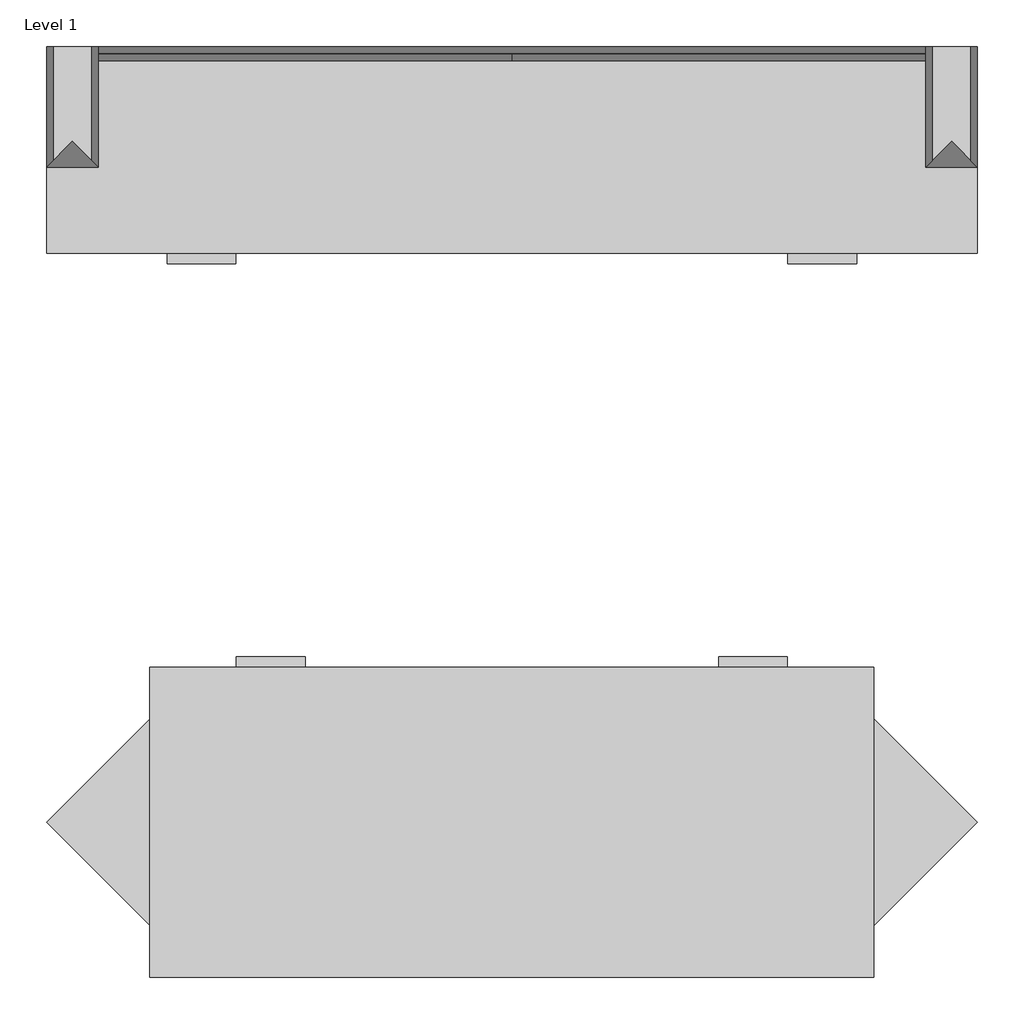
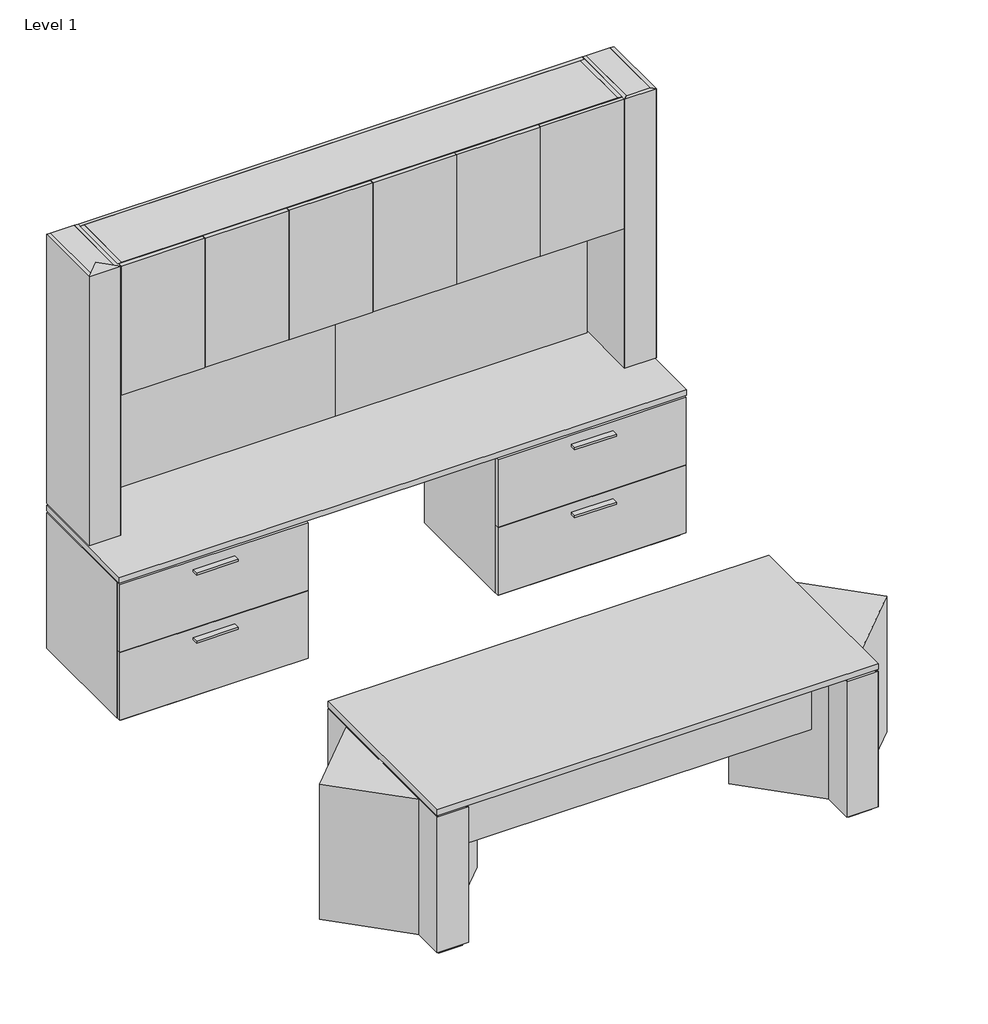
# One storey: 3 proxies.
"""IFC4 building model written with IfcOpenShell, lengths in millimetres."""

from ifc_helpers import new_model, si_unit, origin, place, context, project, spatial, transform, mapped, element, save
from components import generic_models_2694a0a2, generic_models_349c50b2, generic_models_c0b92d67

model = new_model("IFC4")

# Units and contexts
model_context = context("Model", 3, world=origin())
ifc_project = project(units=[si_unit("LENGTHUNIT", "METRE", prefix="MILLI")], contexts=[model_context])

# Site, building, storey
site = spatial("IfcSite", under=ifc_project)
building = spatial("IfcBuilding", under=site)
storey = spatial("IfcBuildingStorey", under=building, Name="Level 1", Elevation=0.0)

# Proxies
placement = place(None, origin())
generic_models_shape = generic_models_2694a0a2(model_context)
element("IfcBuildingElementProxy", 1, Name="BASYS^OFFICE 4_DESK-HALF LTR STORAGE", ObjectType="BASYS^OFFICE 4_DESK-HALF LTR STORAGE", at=placement, inside=storey, context=model_context, shape_type="MappedRepresentation", body=[
    mapped(generic_models_shape, transform((304.8, -1828.8, 0.0), x_axis=(1.0, 0.0, 0.0), y_axis=(0.0, 0.0, 1.0), z_axis=(0.0, -1.0, 0.0))),
])
generic_models_2_shape = generic_models_349c50b2(model_context)
element("IfcBuildingElementProxy", 2, Name="BASYS^OFFICE 4_HIGH RISE-12x55x108-6 DOORS", ObjectType="BASYS^OFFICE 4_HIGH RISE-12x55x108-6 DOORS", at=placement, inside=storey, context=model_context, shape_type="MappedRepresentation", body=[
    mapped(generic_models_2_shape, transform((133.35, 0.0, 749.3), x_axis=(1.0, 0.0, 0.0), y_axis=(0.0, 0.0, 1.0), z_axis=(0.0, -1.0, 0.0))),
])
generic_models_3_shape = generic_models_c0b92d67(model_context)
element("IfcBuildingElementProxy", 3, Name="BASYS^OFFICE 4_CREDENZA 3B 29-108 FILE FKF STORAGE", ObjectType="BASYS^OFFICE 4_CREDENZA 3B 29-108 FILE FKF STORAGE", at=placement, inside=storey, context=model_context, shape_type="MappedRepresentation", body=[
    mapped(generic_models_3_shape, transform((0.0, 0.0, 0.0), x_axis=(1.0, 0.0, 0.0), y_axis=(0.0, 0.0, 1.0), z_axis=(0.0, -1.0, 0.0))),
])

save(model, "model.ifc")
